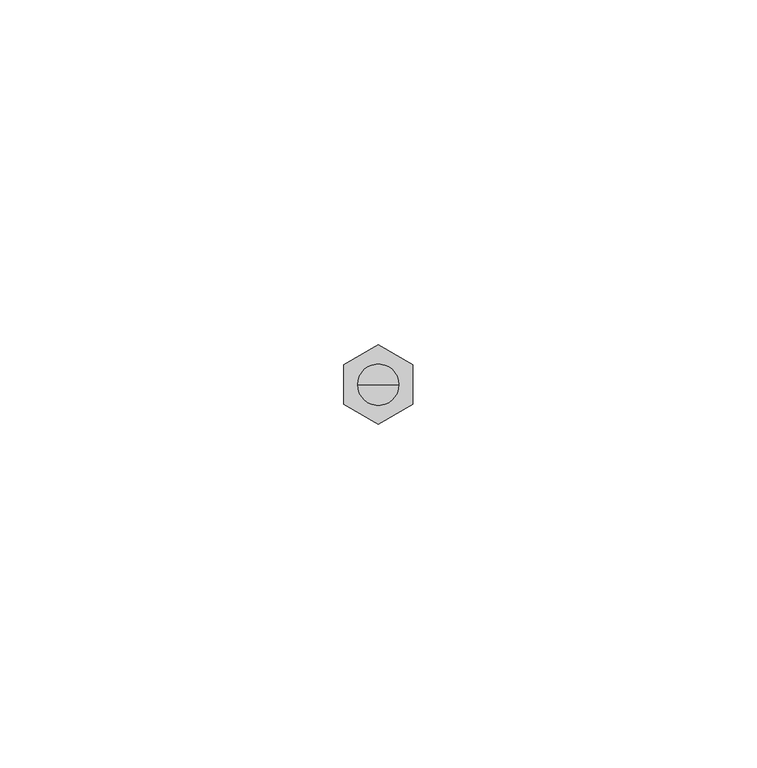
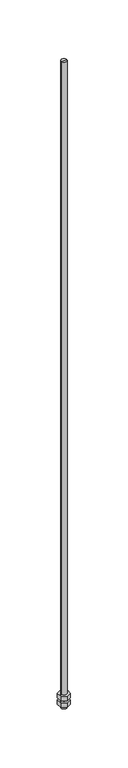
"""IFC4 building model written with IfcOpenShell, lengths in millimetres: proxy geometry, durlum_threaded_rod_M6 : durlum_threaded_rod_M6."""

from ifc_helpers import new_model, si_unit, frame, origin, origin_with_axes, place, context, project, spatial, polyline, circle_curve, outline, extrude, source, transform, mapped, element, save
from ifc_brep_helpers import plane_surface, cylinder_surface, advanced_brep


def generic_models_25fa5e78(model_context):
    return source(origin(), model_context, "Body", "SolidModel", [
        extrude(outline(polyline([(5.0, 3.0421914), (5.0, -2.7313113), (0.0, -5.6180626), (-5.0, -2.7313113), (-5.0, 3.0421914), (0.0, 5.9289428), (5.0, 3.0421914)])), frame((0.0, 0.0, -7.0), z_axis=(0.0, 0.0, 1.0), x_axis=(1.0, 0.0, 0.0)), (0.0, 0.0, 1.0), 5.0),
        extrude(outline(polyline([(5.0, 3.0421914), (5.0, -2.7313113), (0.0, -5.6180626), (-5.0, -2.7313113), (-5.0, 3.0421914), (0.0, 5.9289428), (5.0, 3.0421914)])), origin_with_axes(), (0.0, 0.0, 1.0), 5.0),
        advanced_brep(
        [(-3.0, 0.0, 697.6074769), (3.0, 0.0, 697.6074769), (3.0, 0.0, -10.0), (-3.0, 0.0, -10.0), (0.0, 0.0, 697.6074769), (0.0, 0.0, -10.0)],
        [
            (0, 1, circle_curve(frame((0.0, 0.0, 697.6074769), z_axis=(0.0, 0.0, -1.0), x_axis=(1.0, 0.0, 0.0)), 3.0)),
            (1, 2),
            (2, 3, circle_curve(frame((0.0, 0.0, -10.0), z_axis=(0.0, 0.0, 1.0), x_axis=(1.0, 0.0, 0.0)), 3.0)),
            (3, 0),
            (1, 0, circle_curve(frame((0.0, 0.0, 697.6074769), z_axis=(0.0, 0.0, -1.0), x_axis=(1.0, 0.0, 0.0)), 3.0)),
            (3, 2, circle_curve(frame((0.0, 0.0, -10.0), z_axis=(0.0, 0.0, 1.0), x_axis=(1.0, 0.0, 0.0)), 3.0)),
            (4, 1),
            (0, 4),
            (2, 5),
            (5, 3),
        ],
        [
            cylinder_surface(frame((0.0, 0.0, -675.0), z_axis=(0.0, 0.0, 1.0), x_axis=(1.0, 0.0, 0.0)), 3.0),
            plane_surface(frame((0.0, 0.0, 697.6074769), z_axis=(0.0, 0.0, 1.0), x_axis=(1.0, 0.0, 0.0))),
            plane_surface(frame((0.0, 0.0, -10.0), z_axis=(0.0, 0.0, -1.0), x_axis=(1.0, 0.0, 0.0))),
        ],
        [
            (0, [[1, 2, 3, 4]]),
            (0, [[5, -4, 6, -2]]),
            (1, [[7, -1, 8]]),
            (1, [[-8, -5, -7]]),
            (2, [[-3, 9, 10]]),
            (2, [[-6, -10, -9]]),
        ],
    ),
    ])


if __name__ == "__main__":
    model = new_model("IFC4")
    model_context = context("Model", 3, world=origin())
    ifc_project = project(units=[si_unit("LENGTHUNIT", "METRE", prefix="MILLI")], contexts=[model_context])
    site = spatial("IfcSite", under=ifc_project)
    building = spatial("IfcBuilding", under=site)
    placement = place(None, origin())
    generic_models_shape = generic_models_25fa5e78(model_context)
    element("IfcBuildingElementProxy", 1, Name="durlum_threaded_rod_M6 : durlum_threaded_rod_M6", ObjectType="durlum_threaded_rod_M6 : durlum_threaded_rod_M6", at=placement, inside=building, context=model_context, shape_type="MappedRepresentation", body=[
        mapped(generic_models_shape, transform((0.0, 0.0, 0.0), x_axis=(1.0, 0.0, 0.0), y_axis=(0.0, 1.0, 0.0), z_axis=(0.0, 0.0, 1.0))),
    ])
    save(model, "model.ifc")
